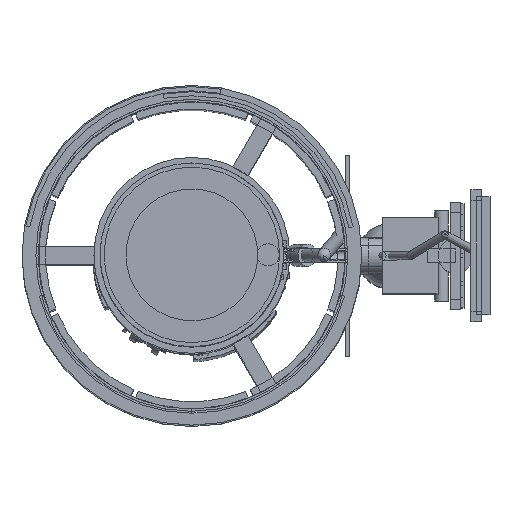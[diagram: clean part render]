
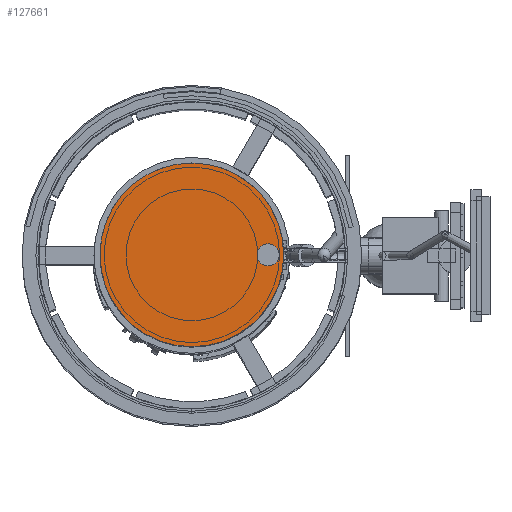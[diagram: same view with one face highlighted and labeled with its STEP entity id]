
A CAD part, top view. The second image highlights one B-rep face of the part: STEP entity #127661.
In plain terms, the highlighted planar face has unit normal (0, 0, 1).
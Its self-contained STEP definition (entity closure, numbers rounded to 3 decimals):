
#127577 = EDGE_CURVE('',#127578,#127578,#127580,.T.);
#127578 = VERTEX_POINT('',#127579);
#127579 = CARTESIAN_POINT('',(26.5,0.,4.));
#127580 = SURFACE_CURVE('',#127581,(#127586,#127598),.PCURVE_S1.);
#127581 = CIRCLE('',#127582,26.5);
#127582 = AXIS2_PLACEMENT_3D('',#127583,#127584,#127585);
#127583 = CARTESIAN_POINT('',(0.,0.,4.));
#127584 = DIRECTION('',(0.,0.,1.));
#127585 = DIRECTION('',(1.,0.,-0.));
#127586 = PCURVE('',#127587,#127592);
#127587 = CYLINDRICAL_SURFACE('',#127588,26.5);
#127588 = AXIS2_PLACEMENT_3D('',#127589,#127590,#127591);
#127589 = CARTESIAN_POINT('',(0.,0.,0.));
#127590 = DIRECTION('',(0.,0.,1.));
#127591 = DIRECTION('',(1.,0.,-0.));
#127592 = DEFINITIONAL_REPRESENTATION('',(#127593),#127597);
#127593 = LINE('',#127594,#127595);
#127594 = CARTESIAN_POINT('',(0.,4.));
#127595 = VECTOR('',#127596,1.);
#127596 = DIRECTION('',(1.,0.));
#127597 = ( GEOMETRIC_REPRESENTATION_CONTEXT(2) 
PARAMETRIC_REPRESENTATION_CONTEXT() REPRESENTATION_CONTEXT('2D SPACE',''
  ) );
#127598 = PCURVE('',#127599,#127604);
#127599 = PLANE('',#127600);
#127600 = AXIS2_PLACEMENT_3D('',#127601,#127602,#127603);
#127601 = CARTESIAN_POINT('',(0.,0.,4.));
#127602 = DIRECTION('',(0.,0.,1.));
#127603 = DIRECTION('',(1.,0.,-0.));
#127604 = DEFINITIONAL_REPRESENTATION('',(#127605),#127609);
#127605 = CIRCLE('',#127606,26.5);
#127606 = AXIS2_PLACEMENT_2D('',#127607,#127608);
#127607 = CARTESIAN_POINT('',(0.,0.));
#127608 = DIRECTION('',(1.,0.));
#127609 = ( GEOMETRIC_REPRESENTATION_CONTEXT(2) 
PARAMETRIC_REPRESENTATION_CONTEXT() REPRESENTATION_CONTEXT('2D SPACE',''
  ) );
#127661 = ADVANCED_FACE('',(#127662,#127665),#127599,.T.);
#127662 = FACE_BOUND('',#127663,.T.);
#127663 = EDGE_LOOP('',(#127664));
#127664 = ORIENTED_EDGE('',*,*,#127577,.T.);
#127665 = FACE_BOUND('',#127666,.T.);
#127666 = EDGE_LOOP('',(#127667));
#127667 = ORIENTED_EDGE('',*,*,#127668,.F.);
#127668 = EDGE_CURVE('',#127669,#127669,#127671,.T.);
#127669 = VERTEX_POINT('',#127670);
#127670 = CARTESIAN_POINT('',(25.2,0.,4.));
#127671 = SURFACE_CURVE('',#127672,(#127677,#127684),.PCURVE_S1.);
#127672 = CIRCLE('',#127673,3.2);
#127673 = AXIS2_PLACEMENT_3D('',#127674,#127675,#127676);
#127674 = CARTESIAN_POINT('',(22.,0.,4.));
#127675 = DIRECTION('',(0.,0.,1.));
#127676 = DIRECTION('',(1.,0.,-0.));
#127677 = PCURVE('',#127599,#127678);
#127678 = DEFINITIONAL_REPRESENTATION('',(#127679),#127683);
#127679 = CIRCLE('',#127680,3.2);
#127680 = AXIS2_PLACEMENT_2D('',#127681,#127682);
#127681 = CARTESIAN_POINT('',(22.,0.));
#127682 = DIRECTION('',(1.,0.));
#127683 = ( GEOMETRIC_REPRESENTATION_CONTEXT(2) 
PARAMETRIC_REPRESENTATION_CONTEXT() REPRESENTATION_CONTEXT('2D SPACE',''
  ) );
#127684 = PCURVE('',#127685,#127690);
#127685 = CYLINDRICAL_SURFACE('',#127686,3.2);
#127686 = AXIS2_PLACEMENT_3D('',#127687,#127688,#127689);
#127687 = CARTESIAN_POINT('',(22.,0.,-0.2));
#127688 = DIRECTION('',(0.,0.,1.));
#127689 = DIRECTION('',(1.,0.,-0.));
#127690 = DEFINITIONAL_REPRESENTATION('',(#127691),#127695);
#127691 = LINE('',#127692,#127693);
#127692 = CARTESIAN_POINT('',(0.,4.2));
#127693 = VECTOR('',#127694,1.);
#127694 = DIRECTION('',(1.,0.));
#127695 = ( GEOMETRIC_REPRESENTATION_CONTEXT(2) 
PARAMETRIC_REPRESENTATION_CONTEXT() REPRESENTATION_CONTEXT('2D SPACE',''
  ) );
